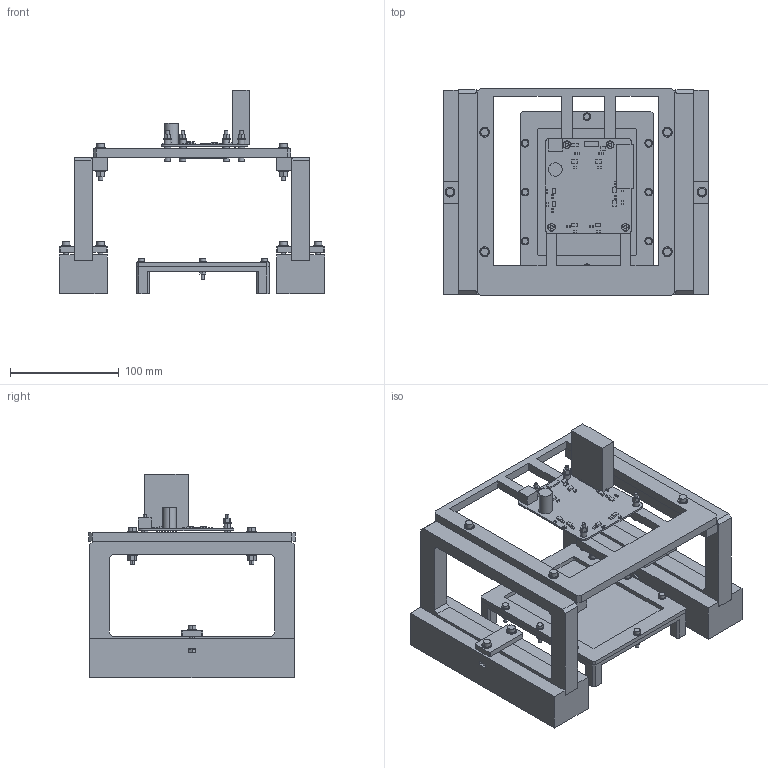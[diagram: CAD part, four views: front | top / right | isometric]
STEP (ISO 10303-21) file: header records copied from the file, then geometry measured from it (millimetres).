
FILE_DESCRIPTION (( 'STEP AP203' ), '1' );
FILE_NAME ('Addons_4x4_film_100mm.step', '2026-10-22T14:09:37', ( '' ), ( '' ), 'SwSTEP 2.0', 'SolidWorks 2025', '' );
FILE_SCHEMA (( 'CONFIG_CONTROL_DESIGN' ));
Length unit declared in the file: millimetre
Products named in the file (20): REF_M4_plain_nut; REF_M4x30_screw; REF_film_4x5in_10um; REF_tx4_electronics; REF_M3_plain_nut; REF_M3x25_screw; 01_side_trestle; 04_m3_rear_sleeve_6x5; REF_M4_washer; Addons_4x4_film_100mm; 08_fixed_riser_30; 10_film_lower_stand; 09_riser_bridge; REF_M4_nylock; REF_M3x16_screw; 02_tx_carrier_4x4; REF_M4x25_screw; REF_M3_nylock; 11_film_upper_ring; REF_M3_washer
Assembly tree (91 placements, depth 2):
  Addons_4x4_film_100mm
    01_side_trestle  x2
    02_tx_carrier_4x4
    REF_tx4_electronics
    04_m3_rear_sleeve_6x5  x4
    REF_M3x25_screw  x4
    REF_M3_washer  x24
    REF_M3_nylock  x4
    REF_M4x30_screw  x4
    REF_M4_washer  x12
    REF_M4_nylock  x4
    08_fixed_riser_30  x2
    09_riser_bridge  x2
    REF_M4x25_screw  x4
    REF_M4_plain_nut  x4
    10_film_lower_stand
    REF_film_4x5in_10um
    11_film_upper_ring
    REF_M3x16_screw  x8
    REF_M3_plain_nut  x8
Bounding box: 244 x 190 x 186.9 mm (x, y, z)
Volume: 1064765.8 mm3; surface area: 300393.1 mm2
Topology: 170 solids, 170 shells, 1328 faces, 2886 edges, 1924 vertices
Faces by surface type: plane 914, cylinder 414
Entity records: 25400 total; most frequent: DIRECTION 3716, CARTESIAN_POINT 3671, ORIENTED_EDGE 3372, EDGE_CURVE 1686, LINE 1378, VECTOR 1378, AXIS2_PLACEMENT_3D 1169, VERTEX_POINT 1124
